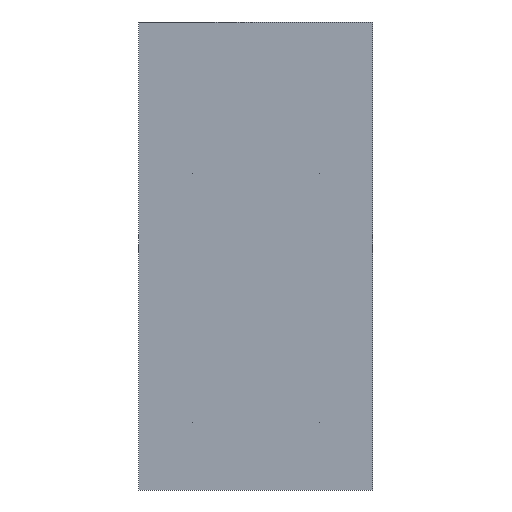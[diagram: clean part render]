
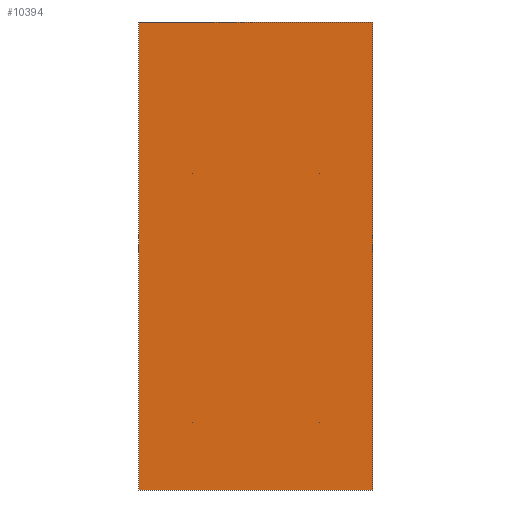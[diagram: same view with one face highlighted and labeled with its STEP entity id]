
A CAD part, front view. The second image highlights one B-rep face of the part: STEP entity #10394.
In plain terms, the highlighted planar face has unit normal (0, -1, 0).
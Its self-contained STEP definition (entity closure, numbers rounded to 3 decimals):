
#956 = PLANE ( 'NONE',  #18219 ) ;
#1479 = CARTESIAN_POINT ( 'NONE',  ( 914.4, 0., 457.2 ) ) ;
#1871 = VECTOR ( 'NONE', #10005, 1000. ) ;
#2021 = EDGE_CURVE ( 'NONE', #16182, #13850, #13949, .T. ) ;
#2580 = FACE_OUTER_BOUND ( 'NONE', #11569, .T. ) ;
#3945 = VERTEX_POINT ( 'NONE', #4272 ) ;
#4264 = ORIENTED_EDGE ( 'NONE', *, *, #15492, .F. ) ;
#4272 = CARTESIAN_POINT ( 'NONE',  ( -914.4, 0., 457.2 ) ) ;
#4589 = CARTESIAN_POINT ( 'NONE',  ( 914.4, 0., -457.2 ) ) ;
#4949 = CARTESIAN_POINT ( 'NONE',  ( 914.4, 0., 457.2 ) ) ;
#5246 = CARTESIAN_POINT ( 'NONE',  ( -914.4, 0., -457.2 ) ) ;
#5614 = CARTESIAN_POINT ( 'NONE',  ( 0., 0., 0. ) ) ;
#6704 = CARTESIAN_POINT ( 'NONE',  ( -914.4, 0., -457.2 ) ) ;
#7147 = DIRECTION ( 'NONE',  ( 0., -1., 0. ) ) ;
#7373 = EDGE_CURVE ( 'NONE', #13850, #3945, #12711, .T. ) ;
#8201 = DIRECTION ( 'NONE',  ( 0., 0., 1. ) ) ;
#8400 = DIRECTION ( 'NONE',  ( 0., 0., -1. ) ) ;
#10005 = DIRECTION ( 'NONE',  ( 1., 0., 0. ) ) ;
#10394 = ADVANCED_FACE ( 'NONE', ( #2580 ), #956, .T. ) ;
#11356 = LINE ( 'NONE', #18439, #1871 ) ;
#11569 = EDGE_LOOP ( 'NONE', ( #18562, #4264, #17095, #18095 ) ) ;
#12711 = LINE ( 'NONE', #15666, #15343 ) ;
#13437 = VECTOR ( 'NONE', #18788, 1000. ) ;
#13618 = EDGE_CURVE ( 'NONE', #16671, #16182, #17358, .T. ) ;
#13691 = VECTOR ( 'NONE', #18261, 1000. ) ;
#13850 = VERTEX_POINT ( 'NONE', #6704 ) ;
#13949 = LINE ( 'NONE', #5246, #13691 ) ;
#15343 = VECTOR ( 'NONE', #8201, 1000. ) ;
#15492 = EDGE_CURVE ( 'NONE', #3945, #16671, #11356, .T. ) ;
#15666 = CARTESIAN_POINT ( 'NONE',  ( -914.4, 0., 457.2 ) ) ;
#16182 = VERTEX_POINT ( 'NONE', #4589 ) ;
#16671 = VERTEX_POINT ( 'NONE', #4949 ) ;
#17095 = ORIENTED_EDGE ( 'NONE', *, *, #7373, .F. ) ;
#17358 = LINE ( 'NONE', #1479, #13437 ) ;
#18095 = ORIENTED_EDGE ( 'NONE', *, *, #2021, .F. ) ;
#18219 = AXIS2_PLACEMENT_3D ( 'NONE', #5614, #7147, #8400 ) ;
#18261 = DIRECTION ( 'NONE',  ( -1., 0., 0. ) ) ;
#18439 = CARTESIAN_POINT ( 'NONE',  ( -914.4, 0., 457.2 ) ) ;
#18562 = ORIENTED_EDGE ( 'NONE', *, *, #13618, .F. ) ;
#18788 = DIRECTION ( 'NONE',  ( 0., 0., -1. ) ) ;
